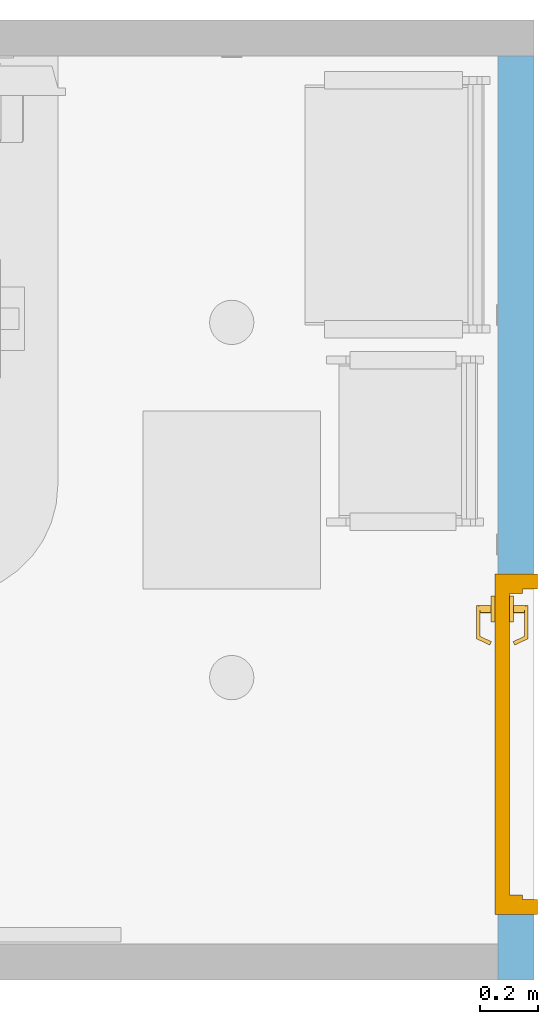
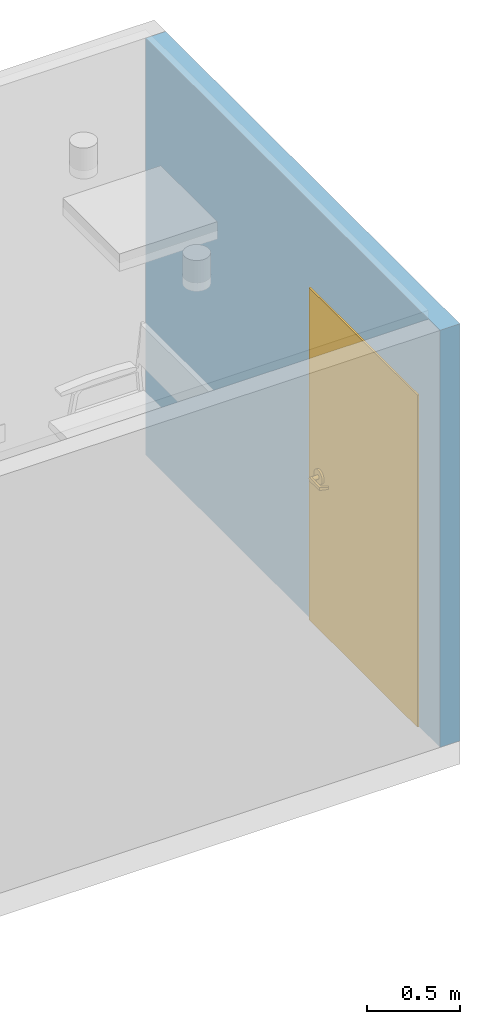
# One storey, part 3 of 10: 1 door, 1 opening, plus 1 element that does not belong to this part.
"""IFC2X3 building model written with IfcOpenShell, lengths in feet."""

from ifc_helpers import new_model, entity, si_unit, converted_unit, derived_unit, direction, frame, frame_2d, origin, place, context, subcontext, project, spatial, rectangle, extrude, faceted_brep, source, transform, mapped, material, layer, layer_set, layer_usage, type_object, type_shapes, element, fill, save


model = new_model("IFC2X3")

# Units and contexts
model_context = context("Model", 3, precision=0.0001, world=origin(), true_north=direction((6.12303176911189e-17, 1.0)))
body_context = subcontext(model_context, "Body", "Model", "MODEL_VIEW")
ifc_project = project(units=[converted_unit("LENGTHUNIT", "FOOT", entity("IfcRatioMeasure", 0.3048), si_unit("LENGTHUNIT", "METRE"), dimensions=[1, 0, 0, 0, 0, 0, 0]), converted_unit("AREAUNIT", "SQUARE FOOT", entity("IfcRatioMeasure", 0.09290304), si_unit("AREAUNIT", "SQUARE_METRE"), dimensions=[2, 0, 0, 0, 0, 0, 0]), converted_unit("VOLUMEUNIT", "CUBIC FOOT", entity("IfcRatioMeasure", 0.028316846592), si_unit("VOLUMEUNIT", "CUBIC_METRE"), dimensions=[3, 0, 0, 0, 0, 0, 0]), converted_unit("PLANEANGLEUNIT", "DEGREE", entity("IfcRatioMeasure", 0.0174532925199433), si_unit("PLANEANGLEUNIT", "RADIAN"), dimensions=[0, 0, 0, 0, 0, 0, 0]), si_unit("MASSUNIT", "GRAM", prefix="KILO"), derived_unit("MASSDENSITYUNIT", [(si_unit("MASSUNIT", "GRAM", prefix="KILO"), 1), (si_unit("LENGTHUNIT", "METRE"), -3)]), si_unit("TIMEUNIT", "SECOND"), si_unit("FREQUENCYUNIT", "HERTZ"), si_unit("THERMODYNAMICTEMPERATUREUNIT", "DEGREE_CELSIUS"), derived_unit("THERMALTRANSMITTANCEUNIT", [(si_unit("MASSUNIT", "GRAM", prefix="KILO"), 1), (si_unit("THERMODYNAMICTEMPERATUREUNIT", "KELVIN"), -1), (si_unit("TIMEUNIT", "SECOND"), -3)]), derived_unit("VOLUMETRICFLOWRATEUNIT", [(si_unit("LENGTHUNIT", "METRE"), 3), (si_unit("TIMEUNIT", "SECOND"), -1)]), si_unit("ELECTRICCURRENTUNIT", "AMPERE"), si_unit("ELECTRICVOLTAGEUNIT", "VOLT"), si_unit("POWERUNIT", "WATT"), si_unit("FORCEUNIT", "NEWTON"), si_unit("ILLUMINANCEUNIT", "LUX"), si_unit("LUMINOUSFLUXUNIT", "LUMEN"), si_unit("LUMINOUSINTENSITYUNIT", "CANDELA"), derived_unit("USERDEFINED", [(si_unit("MASSUNIT", "GRAM", prefix="KILO"), -1), (si_unit("LENGTHUNIT", "METRE"), -2), (si_unit("TIMEUNIT", "SECOND"), 3), (si_unit("LUMINOUSFLUXUNIT", "LUMEN"), 1)]), derived_unit("LINEARVELOCITYUNIT", [(si_unit("LENGTHUNIT", "METRE"), 1), (si_unit("TIMEUNIT", "SECOND"), -1)]), si_unit("PRESSUREUNIT", "PASCAL"), derived_unit("USERDEFINED", [(si_unit("LENGTHUNIT", "METRE"), -2), (si_unit("MASSUNIT", "GRAM", prefix="KILO"), 1), (si_unit("TIMEUNIT", "SECOND"), -2)])], contexts=[model_context])

# Site, building, storey
site_placement = place(None, origin())
site = spatial("IfcSite", under=ifc_project, at=site_placement, Name="Default", CompositionType="ELEMENT")
building_placement = place(site_placement, origin())
building = spatial("IfcBuilding", under=site, at=building_placement, Name="OUTPATIENT / PACT CLINIC (Ch. 265)", CompositionType="ELEMENT")
storey_placement = place(building_placement, origin())
storey = spatial("IfcBuildingStorey", under=building, at=storey_placement, Name="DATUM", CompositionType="ELEMENT", Elevation=0.0)

# Wall, opening, door
ifc_material = material(Name="<Unnamed>")
ifc_layer = layer(ifc_material, 0.40625)
ifc_layer_set = layer_set([ifc_layer], Name="Basic Wall:Interior - 4 7/8\"")
ifc_layer_usage = layer_usage(ifc_layer_set, "AXIS2", "NEGATIVE", 0.203125)
wall_type = type_object("IfcWallType", Name="Basic Wall:Interior - 4 7/8\"", PredefinedType="STANDARD", material=ifc_layer_set)
wall_placement = place(storey_placement, frame((-65.5522393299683, -851.690450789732, 0.0), z_axis=(0.0, 0.0, 1.0), x_axis=(0.0, -1.0, 0.0)))
wall = element("IfcWallStandardCase", 1, at=wall_placement, inside=storey, type_object=wall_type, material=ifc_layer_usage, Name="Basic Wall:Interior - 4 7/8\"", ObjectType="Basic Wall:Interior - 4 7/8\"", context=body_context, shape_type="SweptSolid", body=[
    extrude(rectangle(XDim=10.4062499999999, YDim=0.40625, at=frame_2d((5.20312499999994, 9.29811783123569e-16), x_axis=(-1.0, 0.0))), origin(), (0.0, 0.0, 1.0), 9.0),
])
opening_placement = place(wall_placement, frame((9.66666666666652, 0.203124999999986, 0.0)))
opening = element("IfcOpeningElement", 2, at=opening_placement, cuts=wall, Name="Single - Flush:42\" x 84\":1", ObjectType="Opening", context=body_context, shape_type="SweptSolid", body=[
    extrude(rectangle(XDim=3.83333333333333, YDim=7.16666666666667, at=frame_2d((3.58333333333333, 1.91666666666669), x_axis=(0.0, -1.0))), frame((0.0, 0.0, 0.0), z_axis=(0.0, -1.0, 0.0), x_axis=(0.0, 0.0, 1.0)), (0.0, 0.0, 1.0), 0.40625),
])
door_style = type_object("IfcDoorStyle", Name="42\" x 84\"", ConstructionType="NOTDEFINED", OperationType="NOTDEFINED", ParameterTakesPrecedence=False, Sizeable=False)
shared_shape = source(origin(), body_context, "Body", "Brep", [
    faceted_brep([(3.12432039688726, 0.123080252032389, 3.36458333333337), (3.1307112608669, 0.109375, 3.36458333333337), (3.1307112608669, 0.109375, 3.30208333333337), (3.12432039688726, 0.12308025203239, 3.30208333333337), (3.07149311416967, 0.23636872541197, 3.31250000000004), (3.07149311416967, 0.23636872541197, 3.3541666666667), (3.03373028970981, 0.218759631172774, 3.31250000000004), (3.0865575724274, 0.105471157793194, 3.30208333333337), (3.10416666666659, 0.0677083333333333, 3.30208333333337), (3.10416666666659, 0.067708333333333, 3.36458333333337), (3.0865575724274, 0.105471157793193, 3.36458333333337), (3.03373028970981, 0.218759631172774, 3.3541666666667), (3.10416666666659, 0.109375, 3.30208333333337), (3.10416666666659, 0.109375, 3.36458333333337), (3.43619600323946, 0.0677083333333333, 3.29168707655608), (3.44639661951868, 0.0677083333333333, 3.29262754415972), (3.45605949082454, 0.0677083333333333, 3.29602842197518), (3.46460055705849, 0.0677083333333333, 3.3016841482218), (3.47150356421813, 0.0677083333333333, 3.30925286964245), (3.47635126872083, 0.0677083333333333, 3.31827710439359), (3.47885065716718, 0.0677083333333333, 3.32821139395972), (3.47885065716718, 0.0677083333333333, 3.33845527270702), (3.47635126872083, 0.0677083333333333, 3.34838956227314), (3.47150356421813, 0.0677083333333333, 3.35741379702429), (3.46460055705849, 0.0677083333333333, 3.36498251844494), (3.45605949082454, 0.0677083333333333, 3.37063824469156), (3.44639661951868, 0.0677083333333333, 3.37403912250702), (3.43619600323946, 0.0677083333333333, 3.37497959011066), (3.42566985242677, 0.109375, 3.29338137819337), (3.43619600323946, 0.109375, 3.29168707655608), (3.43619600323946, 0.109375, 3.37497959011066), (3.42566985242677, 0.109375, 3.37328528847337), (3.41591827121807, 0.109375, 3.36897516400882), (3.40757973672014, 0.109375, 3.36233141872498), (3.40120020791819, 0.109375, 3.35378904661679), (3.3971973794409, 0.109375, 3.34390735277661), (3.39583333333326, 0.109375, 3.33333333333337), (3.3971973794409, 0.109375, 3.32275931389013), (3.40120020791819, 0.109375, 3.31287762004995), (3.40757973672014, 0.109375, 3.30433524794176), (3.41591827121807, 0.109375, 3.29769150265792), (3.44568224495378, 0.109375, 3.29247795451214), (3.45473886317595, 0.109375, 3.2954000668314), (3.46289592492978, 0.109375, 3.30030065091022), (3.46972778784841, 0.109375, 3.30692347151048), (3.47487870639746, 0.109375, 3.31492291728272), (3.47808054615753, 0.109375, 3.32388185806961), (3.47916666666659, 0.109375, 3.33333333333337), (3.47808054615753, 0.109375, 3.34278480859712), (3.47487870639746, 0.109375, 3.35174374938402), (3.46972778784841, 0.109375, 3.35974319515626), (3.46289592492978, 0.109375, 3.36636601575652), (3.45473886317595, 0.109375, 3.37126659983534), (3.44568224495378, 0.109375, 3.3741887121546), (3.47774690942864, 0.234375, 3.34411746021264), (3.47916666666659, 0.234375, 3.33333333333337), (3.47358439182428, 0.234375, 3.3541666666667), (3.46696278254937, 0.234375, 3.36279611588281), (3.45833333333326, 0.234375, 3.36941772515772), (3.4482841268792, 0.234375, 3.37358024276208), (3.43749999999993, 0.234375, 3.37500000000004), (3.42671587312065, 0.234375, 3.37358024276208), (3.41666666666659, 0.234375, 3.36941772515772), (3.40803721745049, 0.234375, 3.36279611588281), (3.40141560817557, 0.234375, 3.3541666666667), (3.39725309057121, 0.234375, 3.34411746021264), (3.39583333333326, 0.234375, 3.33333333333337), (3.39725309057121, 0.234375, 3.3225492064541), (3.40141560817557, 0.234375, 3.31250000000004), (3.40803721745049, 0.234375, 3.30387055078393), (3.41666666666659, 0.234375, 3.29724894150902), (3.42671587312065, 0.234375, 3.29308642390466), (3.43749999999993, 0.234375, 3.2916666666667), (3.4482841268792, 0.234375, 3.29308642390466), (3.45833333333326, 0.234375, 3.29724894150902), (3.46696278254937, 0.234375, 3.30387055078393), (3.47358439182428, 0.234375, 3.31250000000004), (3.47774690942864, 0.234375, 3.3225492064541), (3.36458333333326, 0.234375, 3.4596287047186), (3.33438026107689, 0.234375, 3.43645307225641), (3.39975555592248, 0.234375, 3.47419751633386), (3.43749999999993, 0.234375, 3.4791666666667), (3.47524444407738, 0.234375, 3.47419751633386), (3.51041666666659, 0.234375, 3.4596287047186), (3.54061973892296, 0.234375, 3.43645307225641), (3.56379537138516, 0.234375, 3.40625000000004), (3.57836418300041, 0.234375, 3.37107777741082), (3.58333333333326, 0.234375, 3.33333333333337), (3.57836418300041, 0.234375, 3.29558888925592), (3.56379537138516, 0.234375, 3.2604166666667), (3.54061973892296, 0.234375, 3.23021359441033), (3.51041666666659, 0.234375, 3.20703796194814), (3.47524444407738, 0.234375, 3.19246915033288), (3.43749999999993, 0.234375, 3.18750000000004), (3.39975555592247, 0.234375, 3.19246915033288), (3.36458333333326, 0.234375, 3.20703796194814), (3.33438026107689, 0.234375, 3.23021359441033), (3.3112046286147, 0.234375, 3.2604166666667), (3.29663581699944, 0.234375, 3.29558888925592), (3.29166666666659, 0.234375, 3.33333333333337), (3.29663581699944, 0.234375, 3.37107777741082), (3.3112046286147, 0.234375, 3.40625000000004), (3.33438026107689, 0.276041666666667, 3.23021359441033), (3.3112046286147, 0.276041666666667, 3.2604166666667), (3.29663581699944, 0.276041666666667, 3.29558888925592), (3.29166666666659, 0.276041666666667, 3.33333333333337), (3.29663581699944, 0.276041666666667, 3.37107777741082), (3.3112046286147, 0.276041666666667, 3.40625000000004), (3.33438026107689, 0.276041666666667, 3.43645307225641), (3.36458333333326, 0.276041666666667, 3.4596287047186), (3.39975555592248, 0.276041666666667, 3.47419751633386), (3.43749999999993, 0.276041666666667, 3.4791666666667), (3.47524444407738, 0.276041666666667, 3.47419751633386), (3.51041666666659, 0.276041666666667, 3.4596287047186), (3.54061973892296, 0.276041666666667, 3.43645307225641), (3.56379537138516, 0.276041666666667, 3.40625000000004), (3.57836418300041, 0.276041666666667, 3.37107777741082), (3.58333333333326, 0.276041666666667, 3.33333333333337), (3.57836418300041, 0.276041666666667, 3.29558888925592), (3.56379537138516, 0.276041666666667, 3.2604166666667), (3.54061973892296, 0.276041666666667, 3.23021359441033), (3.51041666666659, 0.276041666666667, 3.20703796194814), (3.47524444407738, 0.276041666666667, 3.19246915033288), (3.43749999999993, 0.276041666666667, 3.18750000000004), (3.39975555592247, 0.276041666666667, 3.19246915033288), (3.36458333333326, 0.276041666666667, 3.20703796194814)], [[[0, 1, 2, 3, 4, 5]], [[6, 7, 8, 9, 10, 11]], [[3, 2, 12, 8, 7]], [[4, 3, 7, 6]], [[5, 4, 6, 11]], [[0, 5, 11, 10]], [[1, 0, 10, 9, 13]], [[9, 8, 14, 15, 16, 17, 18, 19, 20, 21, 22, 23, 24, 25, 26, 27]], [[28, 29, 12, 2, 1, 13, 30, 31, 32, 33, 34, 35, 36, 37, 38, 39, 40]], [[14, 8, 12, 29]], [[41, 14, 29]], [[42, 15, 41]], [[17, 43, 44]], [[44, 45, 18]], [[42, 43, 16]], [[46, 19, 45]], [[42, 16, 15]], [[15, 14, 41]], [[19, 18, 45]], [[17, 44, 18]], [[17, 16, 43]], [[20, 19, 46]], [[46, 47, 20]], [[48, 21, 47]], [[49, 22, 48]], [[24, 50, 51]], [[51, 52, 25]], [[49, 50, 23]], [[53, 26, 52]], [[24, 23, 50]], [[23, 22, 49]], [[22, 21, 48]], [[27, 26, 53]], [[25, 52, 26]], [[25, 24, 51]], [[27, 53, 30]], [[47, 21, 20]], [[9, 27, 30, 13]], [[54, 48, 55]], [[56, 49, 54]], [[51, 57, 58]], [[56, 57, 50]], [[52, 58, 59]], [[54, 49, 48]], [[48, 47, 55]], [[52, 51, 58]], [[50, 57, 51]], [[50, 49, 56]], [[53, 52, 59]], [[59, 60, 53]], [[61, 30, 60]], [[62, 31, 61]], [[33, 63, 64]], [[64, 65, 34]], [[62, 63, 32]], [[66, 35, 65]], [[62, 32, 31]], [[31, 30, 61]], [[35, 34, 65]], [[33, 64, 34]], [[33, 32, 63]], [[36, 35, 66]], [[60, 30, 53]], [[67, 37, 66]], [[68, 38, 67]], [[40, 69, 70]], [[68, 69, 39]], [[28, 70, 71]], [[67, 38, 37]], [[37, 36, 66]], [[28, 40, 70]], [[39, 69, 40]], [[39, 38, 68]], [[29, 28, 71]], [[71, 72, 29]], [[73, 41, 72]], [[74, 42, 73]], [[44, 75, 76]], [[76, 77, 45]], [[74, 75, 43]], [[55, 46, 77]], [[74, 43, 42]], [[42, 41, 73]], [[46, 45, 77]], [[44, 76, 45]], [[44, 43, 75]], [[47, 46, 55]], [[72, 41, 29]], [[62, 61, 78]], [[79, 62, 78]], [[62, 79, 63]], [[61, 80, 78]], [[80, 61, 60]], [[80, 60, 81]], [[59, 81, 60]], [[81, 59, 82]], [[59, 58, 82]], [[83, 82, 58]], [[57, 83, 58]], [[83, 57, 84]], [[56, 84, 57]], [[85, 84, 56]], [[54, 85, 56]], [[86, 85, 54]], [[86, 54, 55]], [[86, 55, 87]], [[87, 55, 77]], [[87, 77, 88]], [[88, 77, 76]], [[88, 76, 89]], [[90, 89, 76]], [[90, 76, 75]], [[75, 91, 90]], [[75, 74, 91]], [[92, 91, 74]], [[73, 92, 74]], [[73, 93, 92]], [[93, 73, 72]], [[72, 94, 93]], [[71, 94, 72]], [[94, 71, 95]], [[70, 95, 71]], [[96, 95, 70]], [[96, 70, 69]], [[96, 69, 97]], [[97, 69, 68]], [[97, 68, 98]], [[67, 98, 68]], [[99, 98, 67]], [[67, 66, 99]], [[66, 100, 99]], [[100, 66, 65]], [[100, 65, 101]], [[65, 64, 101]], [[63, 101, 64]], [[79, 101, 63]], [[102, 103, 104, 105, 106, 107, 108, 109, 110, 111, 112, 113, 114, 115, 116, 117, 118, 119, 120, 121, 122, 123, 124, 125]], [[116, 86, 87, 117]], [[115, 85, 86, 116]], [[83, 84, 114, 113]], [[115, 114, 84, 85]], [[82, 83, 113, 112]], [[81, 82, 112, 111]], [[110, 80, 81, 111]], [[109, 78, 80, 110]], [[101, 79, 108, 107]], [[109, 108, 79, 78]], [[100, 101, 107, 106]], [[99, 100, 106, 105]], [[104, 98, 99, 105]], [[103, 97, 98, 104]], [[95, 96, 102, 125]], [[103, 102, 96, 97]], [[94, 95, 125, 124]], [[93, 94, 124, 123]], [[122, 92, 93, 123]], [[121, 91, 92, 122]], [[89, 90, 120, 119]], [[121, 120, 90, 91]], [[88, 89, 119, 118]], [[87, 88, 118, 117]]]),
    faceted_brep([(3.12432039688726, 0.595669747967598, 3.30208333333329), (3.13071126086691, 0.609374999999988, 3.30208333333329), (3.13071126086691, 0.609374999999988, 3.36458333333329), (3.12432039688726, 0.595669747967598, 3.36458333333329), (3.07149311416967, 0.482381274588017, 3.35416666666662), (3.07149311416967, 0.482381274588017, 3.31249999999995), (3.03373028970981, 0.499990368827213, 3.35416666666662), (3.0865575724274, 0.613278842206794, 3.36458333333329), (3.10416666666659, 0.651041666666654, 3.36458333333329), (3.10416666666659, 0.651041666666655, 3.30208333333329), (3.0865575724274, 0.613278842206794, 3.30208333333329), (3.03373028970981, 0.499990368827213, 3.31249999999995), (3.10416666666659, 0.609374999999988, 3.36458333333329), (3.10416666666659, 0.609374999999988, 3.30208333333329), (3.43619600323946, 0.651041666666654, 3.37497959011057), (3.44639661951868, 0.651041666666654, 3.37403912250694), (3.45605949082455, 0.651041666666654, 3.37063824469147), (3.46460055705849, 0.651041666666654, 3.36498251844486), (3.47150356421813, 0.651041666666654, 3.35741379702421), (3.47635126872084, 0.651041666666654, 3.34838956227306), (3.47885065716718, 0.651041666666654, 3.33845527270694), (3.47885065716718, 0.651041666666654, 3.32821139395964), (3.47635126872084, 0.651041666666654, 3.31827710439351), (3.47150356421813, 0.651041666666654, 3.30925286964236), (3.4646005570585, 0.651041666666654, 3.30168414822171), (3.45605949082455, 0.651041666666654, 3.2960284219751), (3.44639661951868, 0.651041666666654, 3.29262754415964), (3.43619600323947, 0.651041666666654, 3.291687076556), (3.42566985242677, 0.609374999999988, 3.37328528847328), (3.43619600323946, 0.609374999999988, 3.37497959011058), (3.43619600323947, 0.609374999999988, 3.291687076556), (3.42566985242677, 0.609374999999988, 3.29338137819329), (3.41591827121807, 0.609374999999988, 3.29769150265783), (3.40757973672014, 0.609374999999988, 3.30433524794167), (3.40120020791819, 0.609374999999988, 3.31287762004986), (3.3971973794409, 0.609374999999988, 3.32275931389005), (3.39583333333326, 0.609374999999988, 3.33333333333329), (3.3971973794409, 0.609374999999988, 3.34390735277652), (3.40120020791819, 0.609374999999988, 3.35378904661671), (3.40757973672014, 0.609374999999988, 3.3623314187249), (3.41591827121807, 0.609374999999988, 3.36897516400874), (3.44568224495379, 0.609374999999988, 3.37418871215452), (3.45473886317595, 0.609374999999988, 3.37126659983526), (3.46289592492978, 0.609374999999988, 3.36636601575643), (3.46972778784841, 0.609374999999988, 3.35974319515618), (3.47487870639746, 0.609374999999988, 3.35174374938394), (3.47808054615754, 0.609374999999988, 3.34278480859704), (3.47916666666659, 0.609374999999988, 3.33333333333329), (3.47808054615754, 0.609374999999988, 3.32388185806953), (3.47487870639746, 0.609374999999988, 3.31492291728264), (3.46972778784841, 0.609374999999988, 3.30692347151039), (3.46289592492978, 0.609374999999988, 3.30030065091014), (3.45473886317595, 0.609374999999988, 3.29540006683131), (3.44568224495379, 0.609374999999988, 3.29247795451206), (3.47774690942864, 0.484374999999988, 3.32254920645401), (3.47916666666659, 0.484374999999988, 3.33333333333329), (3.47358439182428, 0.484374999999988, 3.31249999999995), (3.46696278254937, 0.484374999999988, 3.30387055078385), (3.45833333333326, 0.484374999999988, 3.29724894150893), (3.4482841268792, 0.484374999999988, 3.29308642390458), (3.43749999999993, 0.484374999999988, 3.29166666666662), (3.42671587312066, 0.484374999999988, 3.29308642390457), (3.41666666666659, 0.484374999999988, 3.29724894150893), (3.40803721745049, 0.484374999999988, 3.30387055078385), (3.40141560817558, 0.484374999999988, 3.31249999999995), (3.39725309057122, 0.484374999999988, 3.32254920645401), (3.39583333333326, 0.484374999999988, 3.33333333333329), (3.39725309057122, 0.484374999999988, 3.34411746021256), (3.40141560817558, 0.484374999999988, 3.35416666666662), (3.40803721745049, 0.484374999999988, 3.36279611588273), (3.41666666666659, 0.484374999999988, 3.36941772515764), (3.42671587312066, 0.484374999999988, 3.373580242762), (3.43749999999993, 0.484374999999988, 3.37499999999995), (3.4482841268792, 0.484374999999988, 3.373580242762), (3.45833333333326, 0.484374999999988, 3.36941772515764), (3.46696278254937, 0.484374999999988, 3.36279611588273), (3.47358439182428, 0.484374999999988, 3.35416666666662), (3.47774690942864, 0.484374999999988, 3.34411746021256), (3.36458333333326, 0.484374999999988, 3.20703796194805), (3.33438026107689, 0.484374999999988, 3.23021359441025), (3.39975555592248, 0.484374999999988, 3.1924691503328), (3.43749999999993, 0.484374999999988, 3.18749999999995), (3.47524444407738, 0.484374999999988, 3.1924691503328), (3.51041666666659, 0.484374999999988, 3.20703796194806), (3.54061973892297, 0.484374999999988, 3.23021359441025), (3.56379537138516, 0.484374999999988, 3.26041666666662), (3.57836418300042, 0.484374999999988, 3.29558888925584), (3.58333333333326, 0.484374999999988, 3.33333333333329), (3.57836418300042, 0.484374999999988, 3.37107777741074), (3.56379537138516, 0.484374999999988, 3.40624999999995), (3.54061973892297, 0.484374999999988, 3.43645307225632), (3.51041666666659, 0.484374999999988, 3.45962870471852), (3.47524444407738, 0.484374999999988, 3.47419751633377), (3.43749999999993, 0.484374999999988, 3.47916666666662), (3.39975555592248, 0.484374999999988, 3.47419751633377), (3.36458333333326, 0.484374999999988, 3.45962870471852), (3.33438026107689, 0.484374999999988, 3.43645307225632), (3.3112046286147, 0.484374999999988, 3.40624999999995), (3.29663581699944, 0.484374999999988, 3.37107777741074), (3.29166666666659, 0.484374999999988, 3.33333333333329), (3.29663581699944, 0.484374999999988, 3.29558888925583), (3.3112046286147, 0.484374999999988, 3.26041666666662), (3.33438026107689, 0.442708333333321, 3.43645307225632), (3.3112046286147, 0.442708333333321, 3.40624999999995), (3.29663581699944, 0.442708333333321, 3.37107777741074), (3.29166666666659, 0.442708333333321, 3.33333333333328), (3.29663581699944, 0.442708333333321, 3.29558888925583), (3.3112046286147, 0.442708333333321, 3.26041666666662), (3.33438026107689, 0.442708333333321, 3.23021359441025), (3.36458333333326, 0.442708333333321, 3.20703796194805), (3.39975555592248, 0.442708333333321, 3.1924691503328), (3.43749999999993, 0.442708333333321, 3.18749999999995), (3.47524444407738, 0.442708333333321, 3.1924691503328), (3.51041666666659, 0.442708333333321, 3.20703796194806), (3.54061973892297, 0.442708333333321, 3.23021359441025), (3.56379537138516, 0.442708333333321, 3.26041666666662), (3.57836418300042, 0.442708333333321, 3.29558888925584), (3.58333333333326, 0.442708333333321, 3.33333333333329), (3.57836418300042, 0.442708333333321, 3.37107777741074), (3.56379537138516, 0.442708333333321, 3.40624999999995), (3.54061973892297, 0.442708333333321, 3.43645307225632), (3.51041666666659, 0.442708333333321, 3.45962870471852), (3.47524444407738, 0.442708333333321, 3.47419751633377), (3.43749999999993, 0.442708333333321, 3.47916666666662), (3.39975555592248, 0.442708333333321, 3.47419751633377), (3.36458333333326, 0.442708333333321, 3.45962870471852)], [[[0, 1, 2, 3, 4, 5]], [[6, 7, 8, 9, 10, 11]], [[3, 2, 12, 8, 7]], [[4, 3, 7, 6]], [[5, 4, 6, 11]], [[0, 5, 11, 10]], [[1, 0, 10, 9, 13]], [[9, 8, 14, 15, 16, 17, 18, 19, 20, 21, 22, 23, 24, 25, 26, 27]], [[28, 29, 12, 2, 1, 13, 30, 31, 32, 33, 34, 35, 36, 37, 38, 39, 40]], [[14, 8, 12, 29]], [[41, 14, 29]], [[42, 15, 41]], [[17, 43, 44]], [[44, 45, 18]], [[42, 43, 16]], [[46, 19, 45]], [[42, 16, 15]], [[15, 14, 41]], [[19, 18, 45]], [[17, 44, 18]], [[17, 16, 43]], [[20, 19, 46]], [[46, 47, 20]], [[48, 21, 47]], [[49, 22, 48]], [[24, 50, 51]], [[51, 52, 25]], [[49, 50, 23]], [[53, 26, 52]], [[24, 23, 50]], [[23, 22, 49]], [[22, 21, 48]], [[27, 26, 53]], [[25, 52, 26]], [[25, 24, 51]], [[27, 53, 30]], [[47, 21, 20]], [[9, 27, 30, 13]], [[54, 48, 55]], [[56, 49, 54]], [[51, 57, 58]], [[56, 57, 50]], [[52, 58, 59]], [[54, 49, 48]], [[48, 47, 55]], [[52, 51, 58]], [[50, 57, 51]], [[50, 49, 56]], [[53, 52, 59]], [[59, 60, 53]], [[61, 30, 60]], [[62, 31, 61]], [[33, 63, 64]], [[64, 65, 34]], [[62, 63, 32]], [[66, 35, 65]], [[62, 32, 31]], [[31, 30, 61]], [[35, 34, 65]], [[33, 64, 34]], [[33, 32, 63]], [[36, 35, 66]], [[60, 30, 53]], [[67, 37, 66]], [[68, 38, 67]], [[40, 69, 70]], [[68, 69, 39]], [[28, 70, 71]], [[67, 38, 37]], [[37, 36, 66]], [[28, 40, 70]], [[39, 69, 40]], [[39, 38, 68]], [[29, 28, 71]], [[71, 72, 29]], [[73, 41, 72]], [[74, 42, 73]], [[44, 75, 76]], [[76, 77, 45]], [[74, 75, 43]], [[55, 46, 77]], [[74, 43, 42]], [[42, 41, 73]], [[46, 45, 77]], [[44, 76, 45]], [[44, 43, 75]], [[47, 46, 55]], [[72, 41, 29]], [[62, 61, 78]], [[79, 62, 78]], [[62, 79, 63]], [[61, 80, 78]], [[80, 61, 60]], [[80, 60, 81]], [[59, 81, 60]], [[81, 59, 82]], [[59, 58, 82]], [[83, 82, 58]], [[57, 83, 58]], [[83, 57, 84]], [[56, 84, 57]], [[85, 84, 56]], [[54, 85, 56]], [[86, 85, 54]], [[86, 54, 55]], [[86, 55, 87]], [[87, 55, 77]], [[87, 77, 88]], [[88, 77, 76]], [[88, 76, 89]], [[90, 89, 76]], [[90, 76, 75]], [[75, 91, 90]], [[75, 74, 91]], [[92, 91, 74]], [[73, 92, 74]], [[73, 93, 92]], [[93, 73, 72]], [[72, 94, 93]], [[71, 94, 72]], [[94, 71, 95]], [[70, 95, 71]], [[96, 95, 70]], [[96, 70, 69]], [[96, 69, 97]], [[97, 69, 68]], [[97, 68, 98]], [[67, 98, 68]], [[99, 98, 67]], [[67, 66, 99]], [[66, 100, 99]], [[100, 66, 65]], [[100, 65, 101]], [[65, 64, 101]], [[63, 101, 64]], [[79, 101, 63]], [[102, 103, 104, 105, 106, 107, 108, 109, 110, 111, 112, 113, 114, 115, 116, 117, 118, 119, 120, 121, 122, 123, 124, 125]], [[116, 86, 87, 117]], [[115, 85, 86, 116]], [[83, 84, 114, 113]], [[115, 114, 84, 85]], [[82, 83, 113, 112]], [[81, 82, 112, 111]], [[110, 80, 81, 111]], [[109, 78, 80, 110]], [[101, 79, 108, 107]], [[109, 108, 79, 78]], [[100, 101, 107, 106]], [[99, 100, 106, 105]], [[104, 98, 99, 105]], [[103, 97, 98, 104]], [[95, 96, 102, 125]], [[103, 102, 96, 97]], [[94, 95, 125, 124]], [[93, 94, 124, 123]], [[122, 92, 93, 123]], [[121, 91, 92, 122]], [[89, 90, 120, 119]], [[121, 120, 90, 91]], [[88, 89, 119, 118]], [[87, 88, 118, 117]]]),
    faceted_brep([(0.16666666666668, 0.442708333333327, 7.0), (3.66666666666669, 0.442708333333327, 7.0), (3.66666666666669, 0.442708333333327, 0.0), (0.16666666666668, 0.442708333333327, 0.0), (0.16666666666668, 0.276041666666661, 7.0), (0.16666666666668, 0.276041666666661, 0.0), (3.66666666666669, 0.276041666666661, 0.0), (3.66666666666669, 0.276041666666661, 7.0)], [[[0, 1, 2, 3]], [[4, 5, 6, 7]], [[1, 0, 4, 7]], [[2, 1, 7, 6]], [[3, 2, 6, 5]], [[0, 3, 5, 4]]]),
    faceted_brep([(0.166666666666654, 0.442708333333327, 0.0), (0.166666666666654, 0.276041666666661, 0.0), (0.218749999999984, 0.276041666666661, 0.0), (0.218749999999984, 0.130208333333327, 0.0), (0.166666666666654, 0.130208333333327, 0.0), (0.166666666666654, -0.0364583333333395, 0.0), (0.0, -0.0364583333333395, 0.0), (0.0, 0.442708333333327, 0.0), (0.166666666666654, 0.442708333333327, 7.0), (0.166666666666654, 0.276041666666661, 7.0), (3.66666666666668, 0.276041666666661, 7.0), (3.66666666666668, 0.276041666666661, 0.0), (3.61458333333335, 0.27604166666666, 0.0), (3.61458333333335, 0.276041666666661, 6.94791666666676), (0.218749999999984, 0.276041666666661, 6.94791666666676), (0.218749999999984, 0.130208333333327, 6.94791666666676), (3.61458333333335, 0.130208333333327, 6.94791666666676), (3.61458333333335, 0.130208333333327, 0.0), (3.66666666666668, 0.130208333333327, 0.0), (3.66666666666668, 0.130208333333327, 7.0), (0.166666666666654, 0.130208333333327, 7.0), (0.166666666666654, -0.0364583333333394, 7.0), (3.66666666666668, -0.0364583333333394, 7.0), (3.66666666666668, -0.0364583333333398, 0.0), (3.83333333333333, -0.0364583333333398, 0.0), (3.83333333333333, -0.0364583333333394, 7.16666666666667), (0.0, -0.0364583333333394, 7.16666666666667), (0.0, 0.442708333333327, 7.16666666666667), (3.83333333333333, 0.442708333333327, 7.16666666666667), (3.83333333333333, 0.442708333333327, 0.0), (3.66666666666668, 0.442708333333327, 0.0), (3.66666666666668, 0.442708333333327, 7.0)], [[[0, 1, 2, 3, 4, 5, 6, 7]], [[1, 0, 8, 9]], [[2, 1, 9, 10, 11, 12, 13, 14]], [[3, 2, 14, 15]], [[4, 3, 15, 16, 17, 18, 19, 20]], [[5, 4, 20, 21]], [[6, 5, 21, 22, 23, 24, 25, 26]], [[7, 6, 26, 27]], [[0, 7, 27, 28, 29, 30, 31, 8]], [[30, 11, 10, 31]], [[30, 29, 24, 23, 18, 17, 12, 11]], [[12, 17, 16, 13]], [[19, 18, 23, 22]], [[29, 28, 25, 24]], [[10, 9, 8, 31]], [[15, 14, 13, 16]], [[21, 20, 19, 22]], [[25, 28, 27, 26]]]),
])
type_shapes(door_style, [shared_shape])
door_placement = place(opening_placement, frame((0.0, 0.0, 0.0), z_axis=(0.0, 0.0, 1.0), x_axis=(-1.0, 0.0, 0.0)))
door = element("IfcDoor", 3, at=door_placement, inside=storey, type_object=door_style, Name="Single - Flush:42\" x 84\"", ObjectType="42\" x 84\"", OverallHeight=7.16666666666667, OverallWidth=3.83333333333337, context=body_context, shape_type="MappedRepresentation", body=[
    mapped(shared_shape, transform((0.0, 0.0, 0.0), scale=1.0)),
])
fill(opening, door)

save(model, "model.ifc")
